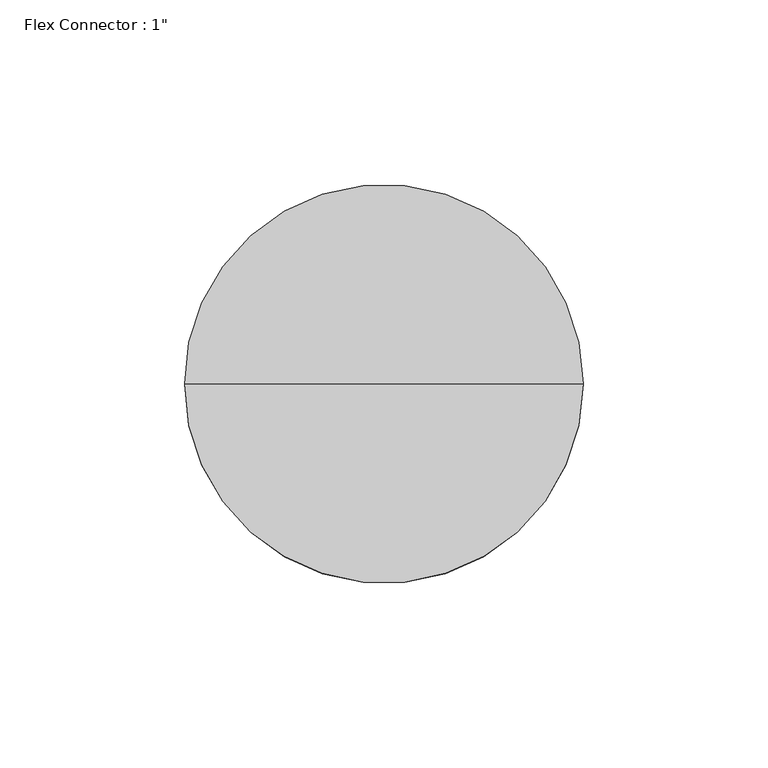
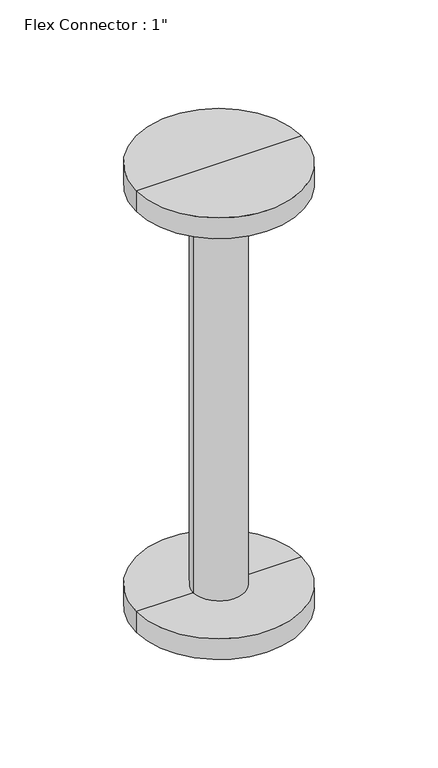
"""IFC4 building model written with IfcOpenShell, lengths in millimetres: valve geometry."""

from ifc_helpers import new_model, si_unit, frame, origin, place, context, project, spatial, circle_curve, source, transform, mapped, element, save
from ifc_brep_helpers import plane_surface, cylinder_surface, advanced_brep


def valve_3f32974f(model_context):
    return source(origin(), model_context, "Body", "AdvancedBrep", [
        advanced_brep(
        [(16.66875, 0.0, 14.2875), (-16.66875, 0.0, 14.2875), (-16.66875, 0.0, 290.5125), (16.66875, 0.0, 290.5125), (0.0, 0.0, 14.2875), (0.0, 0.0, 290.5125)],
        [
            (0, 1, circle_curve(frame((0.0, 0.0, 14.2875), z_axis=(0.0, 0.0, 1.0), x_axis=(-1.0, 0.0, 0.0)), 16.66875)),
            (1, 2),
            (2, 3, circle_curve(frame((0.0, 0.0, 290.5125), z_axis=(0.0, 0.0, -1.0), x_axis=(-1.0, 0.0, 0.0)), 16.66875)),
            (3, 0),
            (1, 0, circle_curve(frame((0.0, 0.0, 14.2875), z_axis=(0.0, 0.0, 1.0), x_axis=(-1.0, 0.0, 0.0)), 16.66875)),
            (3, 2, circle_curve(frame((0.0, 0.0, 290.5125), z_axis=(0.0, 0.0, -1.0), x_axis=(-1.0, 0.0, 0.0)), 16.66875)),
            (4, 1),
            (0, 4),
            (2, 5),
            (5, 3),
        ],
        [
            cylinder_surface(frame((0.0, 0.0, 2618.5831012), z_axis=(0.0, 0.0, -1.0), x_axis=(-1.0, 0.0, 0.0)), 16.66875),
            plane_surface(frame((0.0, 0.0, 14.2875), z_axis=(0.0, 0.0, -1.0), x_axis=(-1.0, 0.0, 0.0))),
            plane_surface(frame((0.0, 0.0, 290.5125), z_axis=(0.0, 0.0, 1.0), x_axis=(-1.0, 0.0, 0.0))),
        ],
        [
            (0, [[1, 2, 3, 4]]),
            (0, [[5, -4, 6, -2]]),
            (1, [[7, -1, 8]]),
            (1, [[-8, -5, -7]]),
            (2, [[-3, 9, 10]]),
            (2, [[-6, -10, -9]]),
        ],
    ),
        advanced_brep(
        [(0.0, 0.0, 0.0), (-53.975, 0.0, 0.0), (53.975, 0.0, 0.0), (53.975, 0.0, 14.2875), (-53.975, 0.0, 14.2875), (0.0, 0.0, 14.2875)],
        [
            (0, 1),
            (1, 2, circle_curve(frame((0.0, 0.0, 0.0), z_axis=(0.0, 0.0, -1.0), x_axis=(-1.0, 0.0, 0.0)), 53.975)),
            (2, 0),
            (2, 1, circle_curve(frame((0.0, 0.0, 0.0), z_axis=(0.0, 0.0, -1.0), x_axis=(-1.0, 0.0, 0.0)), 53.975)),
            (3, 4, circle_curve(frame((0.0, 0.0, 14.2875), z_axis=(0.0, 0.0, 1.0), x_axis=(-1.0, 0.0, 0.0)), 53.975)),
            (4, 5),
            (5, 3),
            (4, 3, circle_curve(frame((0.0, 0.0, 14.2875), z_axis=(0.0, 0.0, 1.0), x_axis=(-1.0, 0.0, 0.0)), 53.975)),
            (1, 4),
            (3, 2),
        ],
        [
            plane_surface(frame((0.0, 0.0, 0.0), z_axis=(0.0, 0.0, -1.0), x_axis=(-1.0, 0.0, 0.0))),
            plane_surface(frame((0.0, 0.0, 14.2875), z_axis=(0.0, 0.0, 1.0), x_axis=(-1.0, 0.0, 0.0))),
            cylinder_surface(frame((0.0, 0.0, 2609.0581012), z_axis=(0.0, 0.0, -1.0), x_axis=(-1.0, 0.0, 0.0)), 53.975),
        ],
        [
            (0, [[1, 2, 3]]),
            (0, [[-3, 4, -1]]),
            (1, [[5, 6, 7]]),
            (1, [[8, -7, -6]]),
            (2, [[-2, 9, -5, 10]]),
            (2, [[-4, -10, -8, -9]]),
        ],
    ),
        advanced_brep(
        [(53.975, 0.0, 304.8), (-53.975, 0.0, 304.8), (0.0, 0.0, 304.8), (53.975, 0.0, 290.5125), (-53.975, 0.0, 290.5125), (0.0, 0.0, 290.5125)],
        [
            (0, 1, circle_curve(frame((0.0, 0.0, 304.8), z_axis=(0.0, 0.0, 1.0), x_axis=(-1.0, 0.0, 0.0)), 53.975)),
            (1, 2),
            (2, 0),
            (1, 0, circle_curve(frame((0.0, 0.0, 304.8), z_axis=(0.0, 0.0, 1.0), x_axis=(-1.0, 0.0, 0.0)), 53.975)),
            (3, 4, circle_curve(frame((0.0, 0.0, 290.5125), z_axis=(0.0, 0.0, 1.0), x_axis=(-1.0, 0.0, 0.0)), 53.975)),
            (4, 1),
            (0, 3),
            (4, 3, circle_curve(frame((0.0, 0.0, 290.5125), z_axis=(0.0, 0.0, 1.0), x_axis=(-1.0, 0.0, 0.0)), 53.975)),
            (5, 4),
            (3, 5),
        ],
        [
            plane_surface(frame((0.0, 0.0, 304.8), z_axis=(0.0, 0.0, 1.0), x_axis=(-1.0, 0.0, 0.0))),
            cylinder_surface(frame((0.0, 0.0, 2609.0581012), z_axis=(0.0, 0.0, -1.0), x_axis=(-1.0, 0.0, 0.0)), 53.975),
            plane_surface(frame((0.0, 0.0, 290.5125), z_axis=(0.0, 0.0, -1.0), x_axis=(-1.0, 0.0, 0.0))),
        ],
        [
            (0, [[1, 2, 3]]),
            (0, [[4, -3, -2]]),
            (1, [[5, 6, -1, 7]]),
            (1, [[8, -7, -4, -6]]),
            (2, [[9, -5, 10]]),
            (2, [[-10, -8, -9]]),
        ],
    ),
    ])


if __name__ == "__main__":
    model = new_model("IFC4")
    model_context = context("Model", 3, world=origin())
    ifc_project = project(units=[si_unit("LENGTHUNIT", "METRE", prefix="MILLI")], contexts=[model_context])
    site = spatial("IfcSite", under=ifc_project)
    building = spatial("IfcBuilding", under=site)
    placement = place(None, origin())
    valve_shape = valve_3f32974f(model_context)
    element("IfcValve", 1, ObjectType="Flex Connector : 1\"", at=placement, inside=building, context=model_context, shape_type="MappedRepresentation", body=[
        mapped(valve_shape, transform((0.0, 0.0, 0.0), x_axis=(1.0, 0.0, 0.0), y_axis=(0.0, 1.0, 0.0), z_axis=(0.0, 0.0, 1.0))),
    ])
    save(model, "model.ifc")
